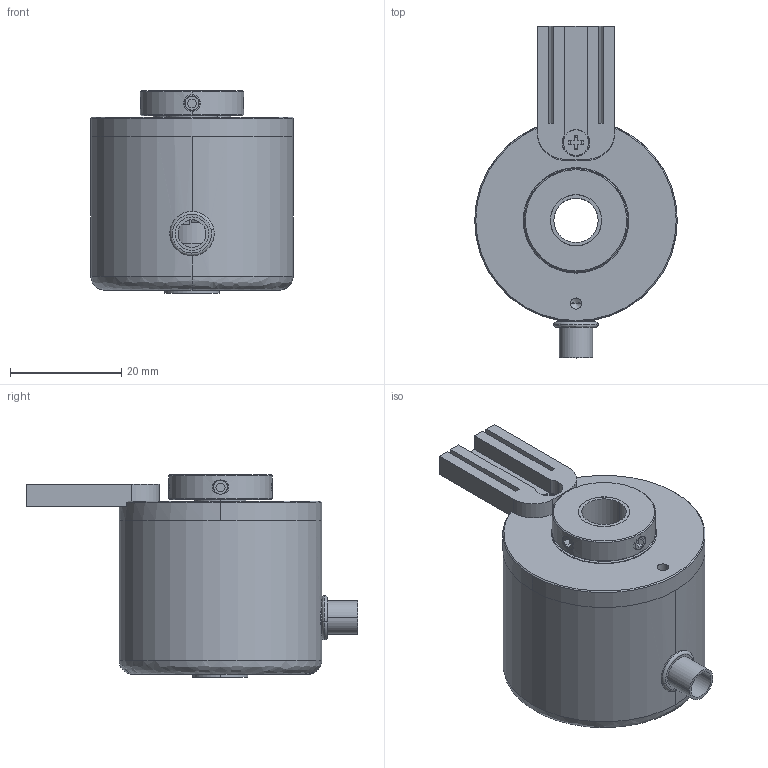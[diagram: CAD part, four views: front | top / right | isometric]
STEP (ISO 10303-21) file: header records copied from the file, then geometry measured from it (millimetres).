
FILE_DESCRIPTION (( 'STEP AP214' ), '1' );
FILE_NAME ('8.3620.24XE.XXXX.STEP', '2014-12-09T12:00:50', ( 'HeirlerN' ), ( 'Microsoft' ), 'SwSTEP 2.0', 'SolidWorks 2013', '' );
FILE_SCHEMA (( 'AUTOMOTIVE_DESIGN' ));
Length unit declared in the file: millimetre
Products named in the file (1): 8.3620.24XE.XXXX
Bounding box: 36.5 x 59.75 x 36.5 mm (x, y, z)
Volume: 18790.2 mm3; surface area: 21360.5 mm2
Topology: 15 solids, 15 shells, 575 faces, 1350 edges, 869 vertices
Faces by surface type: plane 271, cylinder 212, cone 63, bspline 29
Entity records: 24876 total; most frequent: CARTESIAN_POINT 4935, DIRECTION 2854, ORIENTED_EDGE 2676, EDGE_CURVE 1338, AXIS2_PLACEMENT_3D 1040, VERTEX_POINT 869, VECTOR 774, LINE 774
